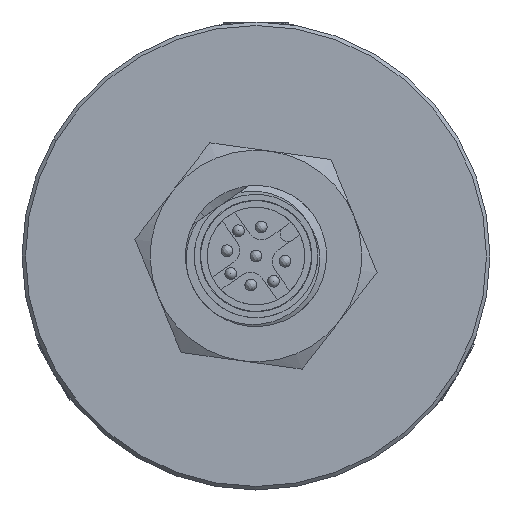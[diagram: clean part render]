
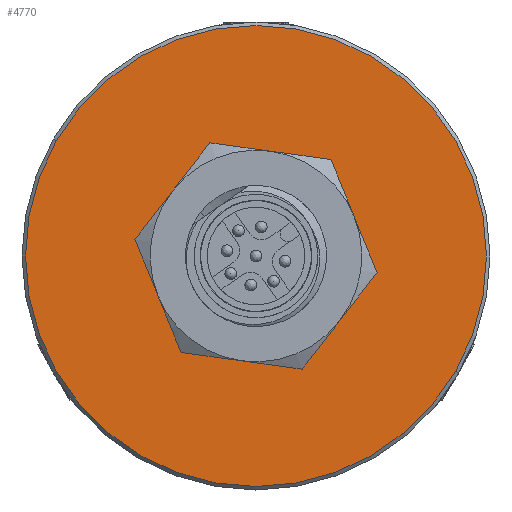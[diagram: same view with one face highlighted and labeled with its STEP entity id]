
A CAD part, left-side view. The second image highlights one B-rep face of the part: STEP entity #4770.
In plain terms, the highlighted planar face has unit normal (-1, 0, 0).
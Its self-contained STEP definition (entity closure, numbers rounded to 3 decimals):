
#1225 = ORIENTED_EDGE ( 'NONE', *, *, #6620, .F. ) ;
#2083 = CARTESIAN_POINT ( 'NONE',  ( -13.5, 0., 114.065 ) ) ;
#3026 = DIRECTION ( 'NONE',  ( -1., 0., 0. ) ) ;
#3759 = EDGE_CURVE ( 'NONE', #24490, #13192, #30610, .T. ) ;
#4477 = CIRCLE ( 'NONE', #30508, 6. ) ;
#4643 = AXIS2_PLACEMENT_3D ( 'NONE', #2083, #36918, #32921 ) ;
#4770 = ADVANCED_FACE ( 'NONE', ( #13777, #14245 ), #31168, .F. ) ;
#5573 = CARTESIAN_POINT ( 'NONE',  ( -13.5, -5.196, 111.065 ) ) ;
#6620 = EDGE_CURVE ( 'NONE', #13192, #24490, #4477, .T. ) ;
#6649 = CARTESIAN_POINT ( 'NONE',  ( -13.5, 5.196, 117.065 ) ) ;
#7015 = CARTESIAN_POINT ( 'NONE',  ( -13.5, 0., 114.065 ) ) ;
#8629 = EDGE_LOOP ( 'NONE', ( #20840, #36005 ) ) ;
#9313 = ORIENTED_EDGE ( 'NONE', *, *, #3759, .F. ) ;
#11166 = DIRECTION ( 'NONE',  ( 0., 0.866, 0.5 ) ) ;
#13011 = EDGE_CURVE ( 'NONE', #19810, #20010, #14882, .T. ) ;
#13192 = VERTEX_POINT ( 'NONE', #5573 ) ;
#13777 = FACE_OUTER_BOUND ( 'NONE', #8629, .T. ) ;
#14245 = FACE_BOUND ( 'NONE', #22822, .T. ) ;
#14882 = CIRCLE ( 'NONE', #4643, 19.6 ) ;
#15147 = DIRECTION ( 'NONE',  ( -1., 0., 0. ) ) ;
#15246 = AXIS2_PLACEMENT_3D ( 'NONE', #27165, #23197, #19243 ) ;
#15659 = EDGE_CURVE ( 'NONE', #20010, #19810, #17081, .T. ) ;
#17081 = CIRCLE ( 'NONE', #38374, 19.6 ) ;
#18178 = DIRECTION ( 'NONE',  ( 0., -0.866, -0.5 ) ) ;
#19089 = CARTESIAN_POINT ( 'NONE',  ( -13.5, 0., 114.065 ) ) ;
#19243 = DIRECTION ( 'NONE',  ( 0., 0.866, 0.5 ) ) ;
#19810 = VERTEX_POINT ( 'NONE', #23346 ) ;
#20010 = VERTEX_POINT ( 'NONE', #28706 ) ;
#20840 = ORIENTED_EDGE ( 'NONE', *, *, #13011, .T. ) ;
#22142 = DIRECTION ( 'NONE',  ( -1., 0., 0. ) ) ;
#22822 = EDGE_LOOP ( 'NONE', ( #1225, #9313 ) ) ;
#23197 = DIRECTION ( 'NONE',  ( 1., 0., 0. ) ) ;
#23346 = CARTESIAN_POINT ( 'NONE',  ( -13.5, 16.974, 123.865 ) ) ;
#24490 = VERTEX_POINT ( 'NONE', #6649 ) ;
#26125 = CARTESIAN_POINT ( 'NONE',  ( -13.5, 0., 114.065 ) ) ;
#27165 = CARTESIAN_POINT ( 'NONE',  ( -13.5, -3., 119.261 ) ) ;
#28706 = CARTESIAN_POINT ( 'NONE',  ( -13.5, -16.974, 104.265 ) ) ;
#30508 = AXIS2_PLACEMENT_3D ( 'NONE', #26125, #22142, #18178 ) ;
#30610 = CIRCLE ( 'NONE', #35652, 6. ) ;
#31168 = PLANE ( 'NONE',  #15246 ) ;
#32921 = DIRECTION ( 'NONE',  ( 0., 0.866, 0.5 ) ) ;
#35652 = AXIS2_PLACEMENT_3D ( 'NONE', #7015, #3026, #37889 ) ;
#36005 = ORIENTED_EDGE ( 'NONE', *, *, #15659, .T. ) ;
#36918 = DIRECTION ( 'NONE',  ( -1., 0., 0. ) ) ;
#37889 = DIRECTION ( 'NONE',  ( 0., -0.866, -0.5 ) ) ;
#38374 = AXIS2_PLACEMENT_3D ( 'NONE', #19089, #15147, #11166 ) ;
